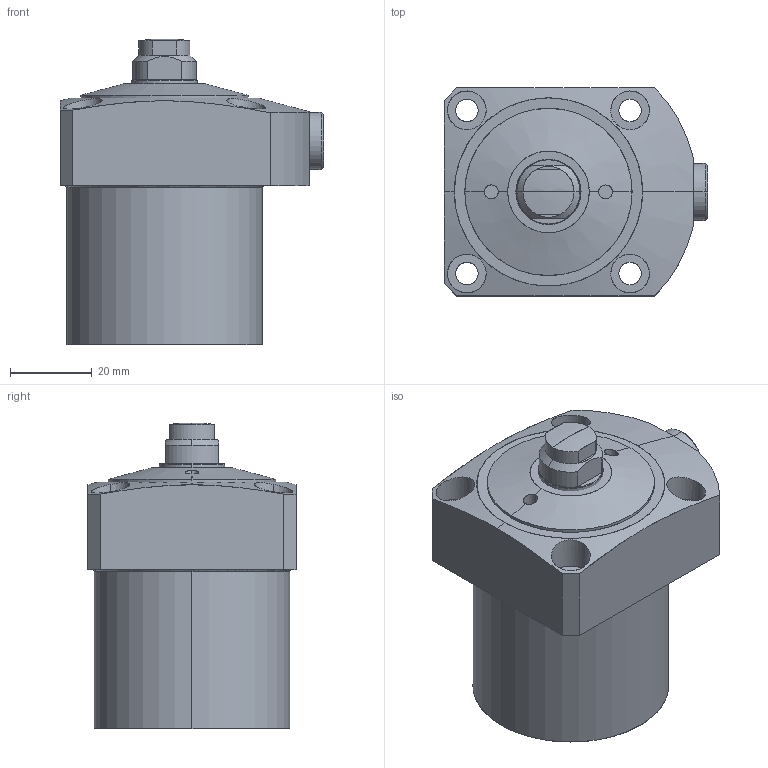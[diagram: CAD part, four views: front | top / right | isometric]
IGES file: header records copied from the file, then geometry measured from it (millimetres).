
Start section: SolidWorks IGES file using analytic representation for surfaces
Global section: file name: F:\clasys\48\LC0482-C.IGS; native system: SolidWorks 2010; preprocessor: SolidWorks 2010; author: nijil; date: 130720.234659; units: millimetre
Bounding box: 64.5 x 51 x 75 mm (x, y, z)
Surface area: 18993 mm2 (no closed solid volume)
Topology: 0 solids, 0 shells, 82 faces, 1628 edges, 1627 vertices
Faces by surface type: revolution 50, bspline 32
